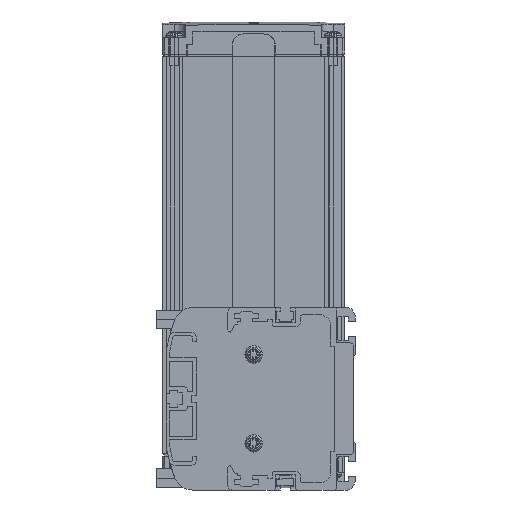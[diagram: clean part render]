
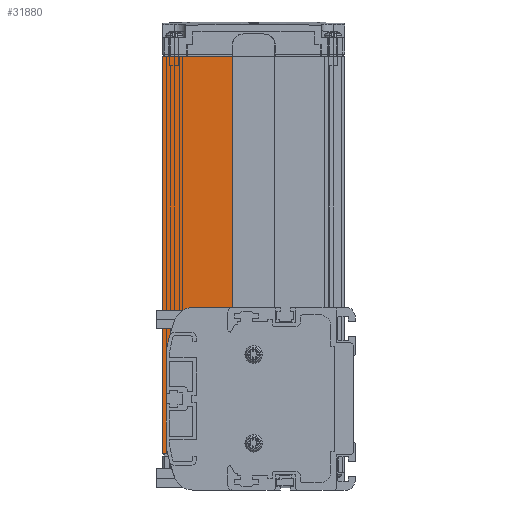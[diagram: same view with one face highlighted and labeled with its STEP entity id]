
A CAD part, left-side view. The second image highlights one B-rep face of the part: STEP entity #31880.
In plain terms, the highlighted planar face has unit normal (-1, 0, 0).
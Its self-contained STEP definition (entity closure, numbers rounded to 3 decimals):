
#5032=CARTESIAN_POINT('',(3.,79.,19.823));
#5033=DIRECTION('',(1.,0.,0.));
#5034=DIRECTION('',(0.,1.,0.));
#5035=AXIS2_PLACEMENT_3D('',#5032,#5033,#5034);
#5045=DIRECTION('',(0.,0.,1.));
#5046=VECTOR('',#5045,39.645);
#5047=CARTESIAN_POINT('',(3.,81.,-19.823));
#5048=LINE('',#5047,#5046);
#5085=CARTESIAN_POINT('',(3.,79.,-19.823));
#5086=DIRECTION('',(-1.,0.,0.));
#5087=DIRECTION('',(0.,1.,0.));
#5088=AXIS2_PLACEMENT_3D('',#5085,#5086,#5087);
#5099=CARTESIAN_POINT('',(3.,2.235,-6.));
#5100=DIRECTION('',(1.,0.,0.));
#5101=DIRECTION('',(0.,0.976,-0.219));
#5102=AXIS2_PLACEMENT_3D('',#5099,#5100,#5101);
#5434=CARTESIAN_POINT('',(3.,2.235,6.));
#5435=DIRECTION('',(1.,0.,0.));
#5436=DIRECTION('',(0.,0.984,0.177));
#5437=AXIS2_PLACEMENT_3D('',#5434,#5435,#5436);
#5447=DIRECTION('',(0.,-1.,0.));
#5448=VECTOR('',#5447,2.203);
#5449=CARTESIAN_POINT('',(3.,82.5,-23.5));
#5450=LINE('',#5449,#5448);
#5451=DIRECTION('',(0.,0.,-1.));
#5452=VECTOR('',#5451,170.);
#5453=CARTESIAN_POINT('',(3.,82.5,146.5));
#5454=LINE('',#5453,#5452);
#5455=DIRECTION('',(0.,1.,0.));
#5456=VECTOR('',#5455,29.9);
#5457=CARTESIAN_POINT('',(3.,52.6,146.5));
#5458=LINE('',#5457,#5456);
#5459=DIRECTION('',(0.,-1.,0.));
#5460=VECTOR('',#5459,17.155);
#5461=CARTESIAN_POINT('',(3.,69.755,39.));
#5462=LINE('',#5461,#5460);
#15349=DIRECTION('',(0.,0.,1.));
#15350=VECTOR('',#15349,107.5);
#15351=CARTESIAN_POINT('',(3.,52.6,39.));
#15352=LINE('',#15351,#15350);
#15385=CARTESIAN_POINT('',(3.,69.755,31.));
#15386=DIRECTION('',(-1.,0.,0.));
#15387=DIRECTION('',(0.,0.,1.));
#15388=AXIS2_PLACEMENT_3D('',#15385,#15386,#15387);
#19580=CARTESIAN_POINT('',(3.,82.5,-23.5));
#19582=VERTEX_POINT('',#19580);
#19677=CARTESIAN_POINT('',(3.,52.6,146.5));
#19678=VERTEX_POINT('',#19677);
#19679=CARTESIAN_POINT('',(3.,82.5,146.5));
#19680=VERTEX_POINT('',#19679);
#24086=CARTESIAN_POINT('',(3.,69.755,39.));
#24087=CARTESIAN_POINT('',(3.,52.6,39.));
#24088=VERTEX_POINT('',#24086);
#24089=VERTEX_POINT('',#24087);
#24090=CARTESIAN_POINT('',(3.,80.297,-23.5));
#24092=VERTEX_POINT('',#24090);
#24114=CARTESIAN_POINT('',(3.,81.,-19.823));
#24115=CARTESIAN_POINT('',(3.,80.968,-20.177));
#24116=VERTEX_POINT('',#24114);
#24117=VERTEX_POINT('',#24115);
#24130=CARTESIAN_POINT('',(3.,77.257,33.778));
#24131=VERTEX_POINT('',#24130);
#24132=CARTESIAN_POINT('',(3.,80.968,20.177));
#24133=VERTEX_POINT('',#24132);
#24134=CARTESIAN_POINT('',(3.,81.,19.823));
#24135=VERTEX_POINT('',#24134);
#31856=CARTESIAN_POINT('',(3.,67.55,61.5));
#31857=DIRECTION('',(1.,0.,0.));
#31858=DIRECTION('',(0.,-1.,0.));
#31859=AXIS2_PLACEMENT_3D('',#31856,#31857,#31858);
#31860=PLANE('',#31859);
#31862=ORIENTED_EDGE('',*,*,#31861,.F.);
#31864=ORIENTED_EDGE('',*,*,#31863,.T.);
#31865=ORIENTED_EDGE('',*,*,#31843,.F.);
#31866=ORIENTED_EDGE('',*,*,#31271,.F.);
#31867=ORIENTED_EDGE('',*,*,#31286,.F.);
#31868=ORIENTED_EDGE('',*,*,#31325,.T.);
#31869=ORIENTED_EDGE('',*,*,#31346,.F.);
#31871=ORIENTED_EDGE('',*,*,#31870,.F.);
#31873=ORIENTED_EDGE('',*,*,#31872,.F.);
#31875=ORIENTED_EDGE('',*,*,#31874,.F.);
#31877=ORIENTED_EDGE('',*,*,#31876,.F.);
#31878=EDGE_LOOP('',(#31862,#31864,#31865,#31866,#31867,#31868,#31869,#31871,
#31873,#31875,#31877));
#31879=FACE_OUTER_BOUND('',#31878,.F.);
#31880=ADVANCED_FACE('',(#31879),#31860,.F.);
#5036=CIRCLE('',#5035,2.);
#5089=CIRCLE('',#5088,2.);
#5103=CIRCLE('',#5102,80.);
#5438=CIRCLE('',#5437,80.);
#15389=CIRCLE('',#15388,8.);
#31271=EDGE_CURVE('',#24135,#24133,#5036,.T.);
#31286=EDGE_CURVE('',#24116,#24135,#5048,.T.);
#31325=EDGE_CURVE('',#24116,#24117,#5089,.T.);
#31346=EDGE_CURVE('',#24092,#24117,#5103,.T.);
#31843=EDGE_CURVE('',#24133,#24131,#5438,.T.);
#31861=EDGE_CURVE('',#24088,#24089,#5462,.T.);
#31863=EDGE_CURVE('',#24088,#24131,#15389,.T.);
#31870=EDGE_CURVE('',#19582,#24092,#5450,.T.);
#31872=EDGE_CURVE('',#19680,#19582,#5454,.T.);
#31874=EDGE_CURVE('',#19678,#19680,#5458,.T.);
#31876=EDGE_CURVE('',#24089,#19678,#15352,.T.);
